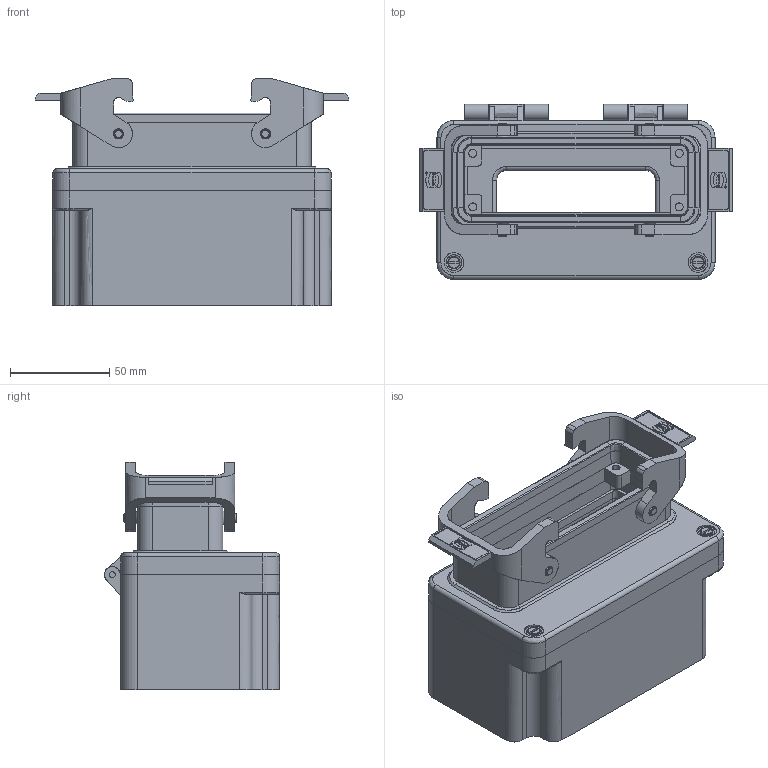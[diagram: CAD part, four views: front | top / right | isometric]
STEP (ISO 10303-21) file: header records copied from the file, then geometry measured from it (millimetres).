
FILE_DESCRIPTION( ( 'STEP AP214' ), '1' );
FILE_NAME( 'C:/Dokumente und Einstellungen/Administrator/Desktop/47 Kabelboxen/G1/8/gr_1_24e-a.stp', '2006-09-10T10:09:41', ( ' ' ), ( ' ' ), 'XStep 1.0', 'VISICAD', ' ' );
FILE_SCHEMA( ( 'automotive_design' ) );
Length unit declared in the file: millimetre
Products named in the file (1162): 1; 2; 3; 4; 5; 6; 7; 8; 9; 10; 11; 12; 13; 14; 15; 16; 17; 18; 19; 20; 21; 22; 23; 24; 25; 26; 27; 28; 29; 30; 31; 32; 33; 34; 35; 36; 37; 38; 39; 40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
Bounding box: 158.1 x 88.2 x 114.6 mm (x, y, z)
Surface area: 133260.2 mm2 (no closed solid volume)
Topology: 0 solids, 1162 shells, 1162 faces, 5952 edges, 5944 vertices
Faces by surface type: plane 630, bspline 242, revolution 202, cylinder 88
Full cylindrical faces by diameter (mm): 0.76 x2, 0.84 x2, 5.1 x4
Entity records: 121450 total; most frequent: CARTESIAN_POINT 50443, DIRECTION 8969, ORIENTED_EDGE 5944, EDGE_CURVE 5944, VERTEX_POINT 5944, LINE 3751, VECTOR 3751, AXIS2_PLACEMENT_3D 2508
